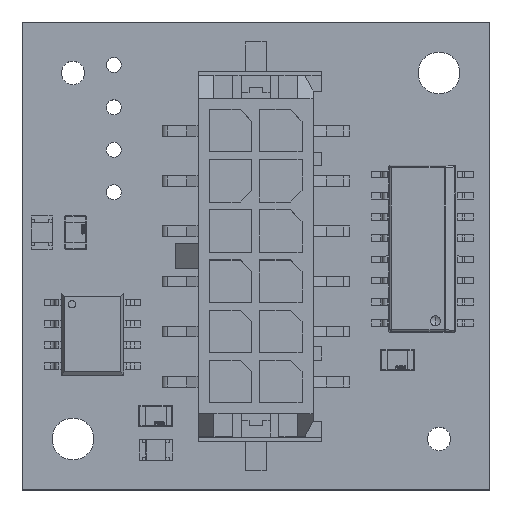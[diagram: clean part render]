
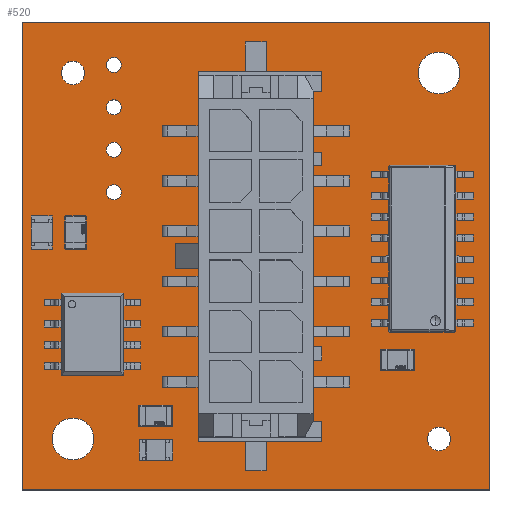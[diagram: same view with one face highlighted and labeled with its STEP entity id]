
A CAD part, top view. The second image highlights one B-rep face of the part: STEP entity #520.
In plain terms, the highlighted planar face has unit normal (0, 0, 1).
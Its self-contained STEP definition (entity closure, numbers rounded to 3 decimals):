
#103 = VERTEX_POINT('',#104);
#104 = CARTESIAN_POINT('',(-11.054,-1.478,0.));
#110 = EDGE_CURVE('',#103,#111,#113,.T.);
#111 = VERTEX_POINT('',#112);
#112 = CARTESIAN_POINT('',(16.946,-1.478,0.));
#113 = LINE('',#114,#115);
#114 = CARTESIAN_POINT('',(-11.054,-1.478,0.));
#115 = VECTOR('',#116,1.);
#116 = DIRECTION('',(1.,0.,0.));
#141 = EDGE_CURVE('',#111,#142,#144,.T.);
#142 = VERTEX_POINT('',#143);
#143 = CARTESIAN_POINT('',(16.946,26.522,0.));
#144 = LINE('',#145,#146);
#145 = CARTESIAN_POINT('',(16.946,-1.478,0.));
#146 = VECTOR('',#147,1.);
#147 = DIRECTION('',(0.,1.,0.));
#172 = EDGE_CURVE('',#142,#173,#175,.T.);
#173 = VERTEX_POINT('',#174);
#174 = CARTESIAN_POINT('',(-11.054,26.522,0.));
#175 = LINE('',#176,#177);
#176 = CARTESIAN_POINT('',(16.946,26.522,0.));
#177 = VECTOR('',#178,1.);
#178 = DIRECTION('',(-1.,0.,0.));
#203 = EDGE_CURVE('',#173,#103,#204,.T.);
#204 = LINE('',#205,#206);
#205 = CARTESIAN_POINT('',(-11.054,26.522,0.));
#206 = VECTOR('',#207,1.);
#207 = DIRECTION('',(0.,-1.,0.));
#227 = VERTEX_POINT('',#228);
#228 = CARTESIAN_POINT('',(-6.754,1.572,0.));
#234 = EDGE_CURVE('',#227,#227,#235,.T.);
#235 = CIRCLE('',#236,1.25);
#236 = AXIS2_PLACEMENT_3D('',#237,#238,#239);
#237 = CARTESIAN_POINT('',(-8.004,1.572,0.));
#238 = DIRECTION('',(0.,0.,1.));
#239 = DIRECTION('',(1.,0.,0.));
#260 = VERTEX_POINT('',#261);
#261 = CARTESIAN_POINT('',(-5.113,16.332,0.));
#267 = EDGE_CURVE('',#260,#260,#268,.T.);
#268 = CIRCLE('',#269,0.45);
#269 = AXIS2_PLACEMENT_3D('',#270,#271,#272);
#270 = CARTESIAN_POINT('',(-5.563,16.332,0.));
#271 = DIRECTION('',(0.,0.,1.));
#272 = DIRECTION('',(1.,0.,0.));
#293 = VERTEX_POINT('',#294);
#294 = CARTESIAN_POINT('',(-7.304,23.472,0.));
#300 = EDGE_CURVE('',#293,#293,#301,.T.);
#301 = CIRCLE('',#302,0.7);
#302 = AXIS2_PLACEMENT_3D('',#303,#304,#305);
#303 = CARTESIAN_POINT('',(-8.004,23.472,0.));
#304 = DIRECTION('',(0.,0.,1.));
#305 = DIRECTION('',(1.,0.,0.));
#326 = VERTEX_POINT('',#327);
#327 = CARTESIAN_POINT('',(-5.113,18.872,0.));
#333 = EDGE_CURVE('',#326,#326,#334,.T.);
#334 = CIRCLE('',#335,0.45);
#335 = AXIS2_PLACEMENT_3D('',#336,#337,#338);
#336 = CARTESIAN_POINT('',(-5.563,18.872,0.));
#337 = DIRECTION('',(0.,0.,1.));
#338 = DIRECTION('',(1.,0.,0.));
#359 = VERTEX_POINT('',#360);
#360 = CARTESIAN_POINT('',(-5.113,21.412,0.));
#366 = EDGE_CURVE('',#359,#359,#367,.T.);
#367 = CIRCLE('',#368,0.45);
#368 = AXIS2_PLACEMENT_3D('',#369,#370,#371);
#369 = CARTESIAN_POINT('',(-5.563,21.412,0.));
#370 = DIRECTION('',(0.,0.,1.));
#371 = DIRECTION('',(1.,0.,0.));
#392 = VERTEX_POINT('',#393);
#393 = CARTESIAN_POINT('',(14.596,1.572,0.));
#399 = EDGE_CURVE('',#392,#392,#400,.T.);
#400 = CIRCLE('',#401,0.7);
#401 = AXIS2_PLACEMENT_3D('',#402,#403,#404);
#402 = CARTESIAN_POINT('',(13.896,1.572,0.));
#403 = DIRECTION('',(0.,0.,1.));
#404 = DIRECTION('',(1.,0.,0.));
#425 = VERTEX_POINT('',#426);
#426 = CARTESIAN_POINT('',(-5.113,23.952,0.));
#432 = EDGE_CURVE('',#425,#425,#433,.T.);
#433 = CIRCLE('',#434,0.45);
#434 = AXIS2_PLACEMENT_3D('',#435,#436,#437);
#435 = CARTESIAN_POINT('',(-5.563,23.952,0.));
#436 = DIRECTION('',(0.,0.,1.));
#437 = DIRECTION('',(1.,0.,0.));
#458 = VERTEX_POINT('',#459);
#459 = CARTESIAN_POINT('',(15.146,23.472,0.));
#465 = EDGE_CURVE('',#458,#458,#466,.T.);
#466 = CIRCLE('',#467,1.25);
#467 = AXIS2_PLACEMENT_3D('',#468,#469,#470);
#468 = CARTESIAN_POINT('',(13.896,23.472,0.));
#469 = DIRECTION('',(0.,0.,1.));
#470 = DIRECTION('',(1.,0.,0.));
#520 = ADVANCED_FACE('',(#521,#527,#530,#533,#536,#539,#542,#545,#548),
  #551,.F.);
#521 = FACE_BOUND('',#522,.T.);
#522 = EDGE_LOOP('',(#523,#524,#525,#526));
#523 = ORIENTED_EDGE('',*,*,#110,.T.);
#524 = ORIENTED_EDGE('',*,*,#141,.T.);
#525 = ORIENTED_EDGE('',*,*,#172,.T.);
#526 = ORIENTED_EDGE('',*,*,#203,.T.);
#527 = FACE_BOUND('',#528,.F.);
#528 = EDGE_LOOP('',(#529));
#529 = ORIENTED_EDGE('',*,*,#234,.T.);
#530 = FACE_BOUND('',#531,.F.);
#531 = EDGE_LOOP('',(#532));
#532 = ORIENTED_EDGE('',*,*,#267,.T.);
#533 = FACE_BOUND('',#534,.F.);
#534 = EDGE_LOOP('',(#535));
#535 = ORIENTED_EDGE('',*,*,#300,.T.);
#536 = FACE_BOUND('',#537,.F.);
#537 = EDGE_LOOP('',(#538));
#538 = ORIENTED_EDGE('',*,*,#333,.T.);
#539 = FACE_BOUND('',#540,.F.);
#540 = EDGE_LOOP('',(#541));
#541 = ORIENTED_EDGE('',*,*,#366,.T.);
#542 = FACE_BOUND('',#543,.F.);
#543 = EDGE_LOOP('',(#544));
#544 = ORIENTED_EDGE('',*,*,#399,.T.);
#545 = FACE_BOUND('',#546,.F.);
#546 = EDGE_LOOP('',(#547));
#547 = ORIENTED_EDGE('',*,*,#432,.T.);
#548 = FACE_BOUND('',#549,.F.);
#549 = EDGE_LOOP('',(#550));
#550 = ORIENTED_EDGE('',*,*,#465,.T.);
#551 = PLANE('',#552);
#552 = AXIS2_PLACEMENT_3D('',#553,#554,#555);
#553 = CARTESIAN_POINT('',(-11.054,-1.478,0.));
#554 = DIRECTION('',(0.,0.,-1.));
#555 = DIRECTION('',(-1.,0.,0.));
